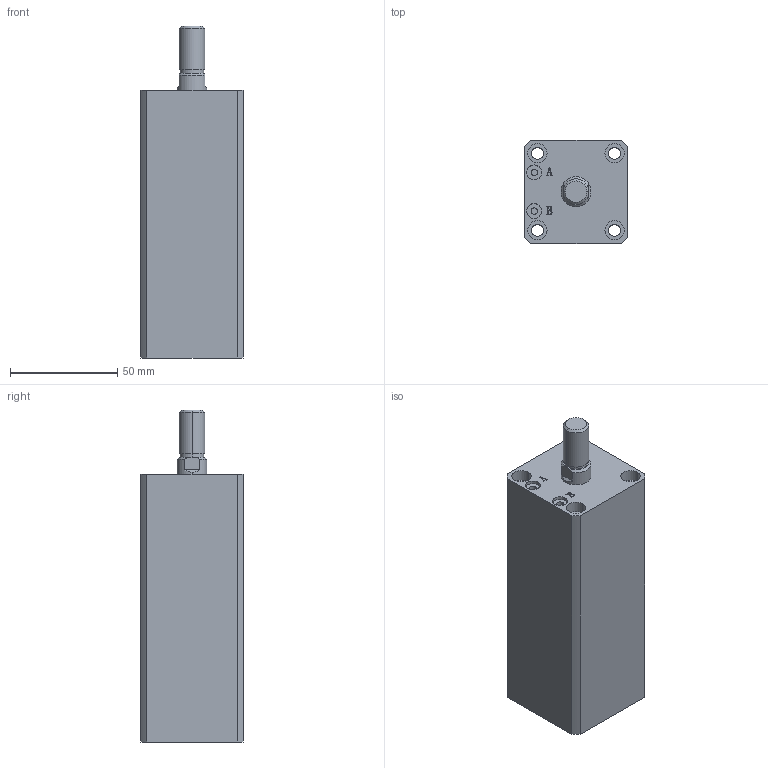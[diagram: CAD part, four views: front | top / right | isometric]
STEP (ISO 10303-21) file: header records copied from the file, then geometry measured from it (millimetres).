
FILE_DESCRIPTION (( 'STEP AP203' ), '1' );
FILE_NAME ('HTB-SDMA25-80W.STEP', '2019-10-07T11:12:47', ( '微软用户' ), ( '微软中国' ), 'SwSTEP 2.0', 'SolidWorks 2012', '' );
FILE_SCHEMA (( 'CONFIG_CONTROL_DESIGN' ));
Length unit declared in the file: millimetre
Products named in the file (3): HTB-SDMA25-80W; HTB-SDMA25-80W活塞杆; HTB-SDMA25-80掛极
Assembly tree (2 placements, depth 2):
  HTB-SDMA25-80W
    HTB-SDMA25-80掛极
    HTB-SDMA25-80W活塞杆
Bounding box: 48 x 48 x 155 mm (x, y, z)
Volume: 248398.7 mm3; surface area: 54015.7 mm2
Topology: 2 solids, 2 shells, 141 faces, 335 edges, 220 vertices
Faces by surface type: plane 67, cylinder 48, bspline 16, torus 6, cone 4
Entity records: 5178 total; most frequent: CARTESIAN_POINT 1609, ORIENTED_EDGE 670, DIRECTION 667, EDGE_CURVE 335, AXIS2_PLACEMENT_3D 242, VERTEX_POINT 220, LINE 183, VECTOR 183
